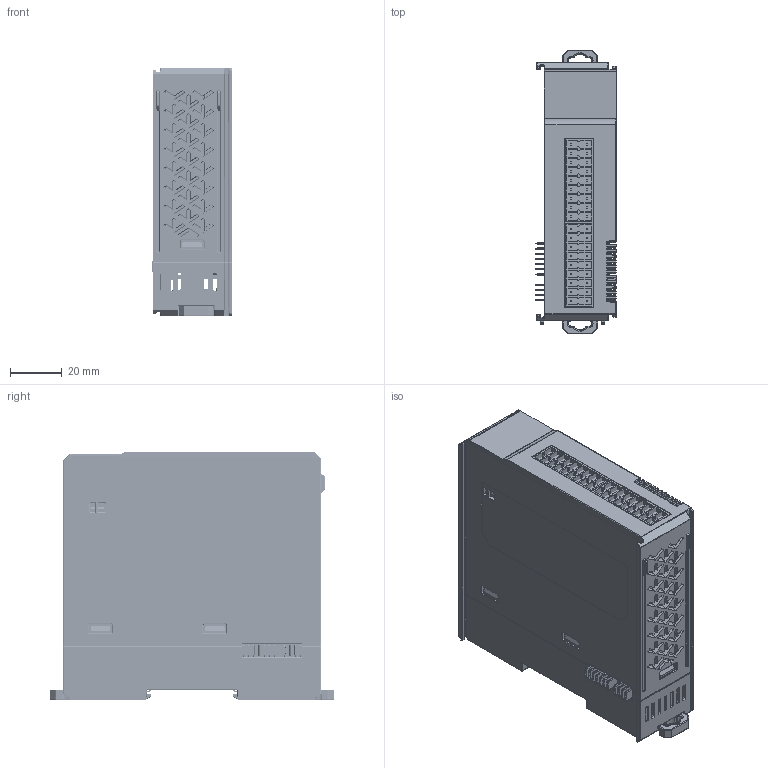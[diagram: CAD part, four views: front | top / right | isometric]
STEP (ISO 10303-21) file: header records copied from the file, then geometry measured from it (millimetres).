
FILE_DESCRIPTION((''),'2;1');
FILE_NAME('PM32DX-A0_ASM_15_ASM','2022-04-26T16:22:09',('Lenovo'),(''),'CREO PARAMETRIC BY PTC INC, 2020033','CREO PARAMETRIC BY PTC INC, 2020033','');
FILE_SCHEMA(('CONFIG_CONTROL_DESIGN'));
Products named in the file (24): PM32DX-A0-COVER_3; PM32DX-A0-BASE_4; PM32DX-A0-DGZ_2; PM32DX-A0-JINGPIAN_5; KAKOU-LIANJIEJIAN_2; KAKOU_5; KAKOU-JIEDIPIAN_3; KAKOU_ASM_6_ASM; PM32DX-A0-PCB02_5; CONNECTOR-M_12; CONNECTOR-PIN-IDE-0_3; PM02PS-A0-JIEDIPIAN_2; CONNECTOR-A_1; PM32DX-A0-PCB02_ASM_6_ASM; PM32DX-A0-PCB01_3; CONNECTOR-B_3; CBT-0810XXF-52-14PIN_3; 18PIN-X2_4; PM32DX-A0-PCB01_ASM_7_ASM; PM32DX-A0-PCB03_4; CBT-0810XXM-52-14PIN_2; PM32DX-A0-PCB03_ASM_4_ASM; PM32DX-A0-PCB_ASM_8_ASM; PM32DX-A0_ASM_15_ASM
Assembly tree (25 placements, depth 4):
  PM32DX-A0_ASM_15_ASM
    PM32DX-A0-COVER_3
    PM32DX-A0-BASE_4
    PM32DX-A0-DGZ_2
    PM32DX-A0-JINGPIAN_5
    KAKOU-LIANJIEJIAN_2
    KAKOU_ASM_6_ASM  x2
      KAKOU_5
      KAKOU-JIEDIPIAN_3
    PM32DX-A0-PCB_ASM_8_ASM
      PM32DX-A0-PCB02_ASM_6_ASM
        PM32DX-A0-PCB02_5
        CONNECTOR-M_12
        CONNECTOR-PIN-IDE-0_3
        PM02PS-A0-JIEDIPIAN_2
        CONNECTOR-A_1
      PM32DX-A0-PCB01_ASM_7_ASM
        PM32DX-A0-PCB01_3
        CONNECTOR-B_3
        CBT-0810XXF-52-14PIN_3
        18PIN-X2_4  x2
      PM32DX-A0-PCB03_ASM_4_ASM
        PM32DX-A0-PCB03_4
        CBT-0810XXM-52-14PIN_2
Bounding box: 31.2 x 110.02 x 96.42 mm (x, y, z)
Volume: 244299.8 mm3; surface area: 134054.2 mm2
Topology: 21 solids, 21 shells, 8180 faces, 23079 edges, 14962 vertices
Faces by surface type: plane 5425, cylinder 1928, bspline 343, cone 196, sphere 142, torus 130, extrusion 16
Entity records: 245951 total; most frequent: CARTESIAN_POINT 61247, ORIENTED_EDGE 41296, DIRECTION 33607, EDGE_CURVE 20648, VECTOR 15173, LINE 15157, VERTEX_POINT 13527, AXIS2_PLACEMENT_3D 9217
